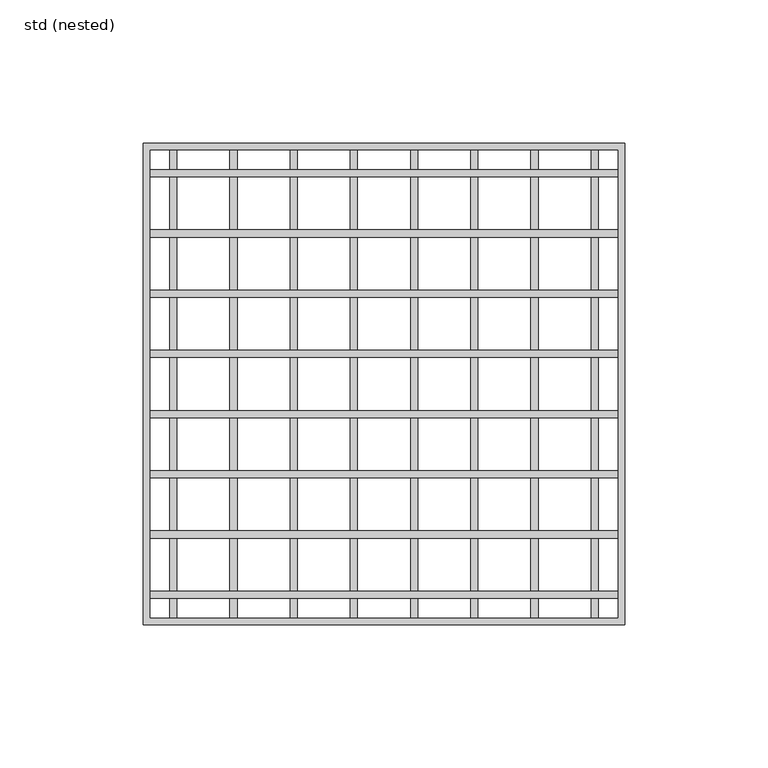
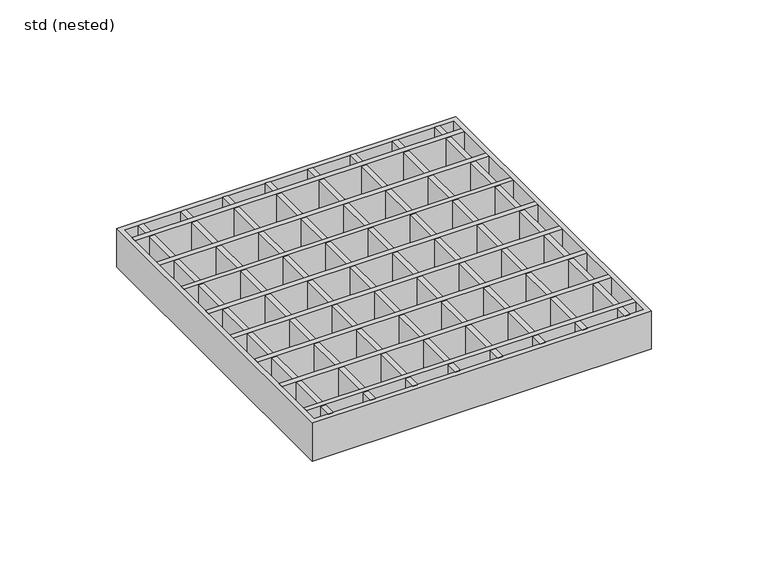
"""IFC4 building model written with IfcOpenShell, lengths in millimetres: sanitary terminal geometry, ZZZ_do not use_PF_ST_UN_square grating for hygienic gully_ACO : std (nested)."""

from ifc_helpers import new_model, si_unit, frame, origin, place, context, project, spatial, polyline, outline, extrude, source, transform, mapped, element, save


def std_nested_6d645567(model_context):
    return source(origin(), model_context, "Body", "SweptSolid", [
        extrude(outline(polyline([(-81.5, -74.75), (-81.5, -72.25), (81.5, -72.25), (81.5, -74.75), (-81.5, -74.75)])), frame((0.0, 0.0, -20.0), z_axis=(0.0, 0.0, 1.0), x_axis=(1.0, 0.0, 0.0)), (0.0, 0.0, 1.0), 20.0),
        extrude(outline(polyline([(-81.5, -53.75), (-81.5, -51.25), (81.5, -51.25), (81.5, -53.75), (-81.5, -53.75)])), frame((0.0, 0.0, -20.0), z_axis=(0.0, 0.0, 1.0), x_axis=(1.0, 0.0, 0.0)), (0.0, 0.0, 1.0), 20.0),
        extrude(outline(polyline([(-81.5, -32.75), (-81.5, -30.25), (81.5, -30.25), (81.5, -32.75), (-81.5, -32.75)])), frame((0.0, 0.0, -20.0), z_axis=(0.0, 0.0, 1.0), x_axis=(1.0, 0.0, 0.0)), (0.0, 0.0, 1.0), 20.0),
        extrude(outline(polyline([(-81.5, 72.25), (-81.5, 74.75), (81.5, 74.75), (81.5, 72.25), (-81.5, 72.25)])), frame((0.0, 0.0, -20.0), z_axis=(0.0, 0.0, 1.0), x_axis=(1.0, 0.0, 0.0)), (0.0, 0.0, 1.0), 20.0),
        extrude(outline(polyline([(-81.5, 51.25), (-81.5, 53.75), (81.5, 53.75), (81.5, 51.25), (-81.5, 51.25)])), frame((0.0, 0.0, -20.0), z_axis=(0.0, 0.0, 1.0), x_axis=(1.0, 0.0, 0.0)), (0.0, 0.0, 1.0), 20.0),
        extrude(outline(polyline([(-81.5, 30.25), (-81.5, 32.75), (81.5, 32.75), (81.5, 30.25), (-81.5, 30.25)])), frame((0.0, 0.0, -20.0), z_axis=(0.0, 0.0, 1.0), x_axis=(1.0, 0.0, 0.0)), (0.0, 0.0, 1.0), 20.0),
        extrude(outline(polyline([(-81.5, 9.25), (-81.5, 11.75), (81.5, 11.75), (81.5, 9.25), (-81.5, 9.25)])), frame((0.0, 0.0, -20.0), z_axis=(0.0, 0.0, 1.0), x_axis=(1.0, 0.0, 0.0)), (0.0, 0.0, 1.0), 20.0),
        extrude(outline(polyline([(-81.5, -11.75), (-81.5, -9.25), (81.5, -9.25), (81.5, -11.75), (-81.5, -11.75)])), frame((0.0, 0.0, -20.0), z_axis=(0.0, 0.0, 1.0), x_axis=(1.0, 0.0, 0.0)), (0.0, 0.0, 1.0), 20.0),
        extrude(outline(polyline([(-72.25, -81.5), (-74.75, -81.5), (-74.75, 81.5), (-72.25, 81.5), (-72.25, -81.5)])), frame((0.0, 0.0, -20.0), z_axis=(0.0, 0.0, 1.0), x_axis=(1.0, 0.0, 0.0)), (0.0, 0.0, 1.0), 20.0),
        extrude(outline(polyline([(-51.25, -81.5), (-53.75, -81.5), (-53.75, 81.5), (-51.25, 81.5), (-51.25, -81.5)])), frame((0.0, 0.0, -20.0), z_axis=(0.0, 0.0, 1.0), x_axis=(1.0, 0.0, 0.0)), (0.0, 0.0, 1.0), 20.0),
        extrude(outline(polyline([(-30.25, -81.5), (-32.75, -81.5), (-32.75, 81.5), (-30.25, 81.5), (-30.25, -81.5)])), frame((0.0, 0.0, -20.0), z_axis=(0.0, 0.0, 1.0), x_axis=(1.0, 0.0, 0.0)), (0.0, 0.0, 1.0), 20.0),
        extrude(outline(polyline([(74.75, -81.5), (72.25, -81.5), (72.25, 81.5), (74.75, 81.5), (74.75, -81.5)])), frame((0.0, 0.0, -20.0), z_axis=(0.0, 0.0, 1.0), x_axis=(1.0, 0.0, 0.0)), (0.0, 0.0, 1.0), 20.0),
        extrude(outline(polyline([(53.75, -81.5), (51.25, -81.5), (51.25, 81.5), (53.75, 81.5), (53.75, -81.5)])), frame((0.0, 0.0, -20.0), z_axis=(0.0, 0.0, 1.0), x_axis=(1.0, 0.0, 0.0)), (0.0, 0.0, 1.0), 20.0),
        extrude(outline(polyline([(32.75, -81.5), (30.25, -81.5), (30.25, 81.5), (32.75, 81.5), (32.75, -81.5)])), frame((0.0, 0.0, -20.0), z_axis=(0.0, 0.0, 1.0), x_axis=(1.0, 0.0, 0.0)), (0.0, 0.0, 1.0), 20.0),
        extrude(outline(polyline([(-9.25, -81.5), (-11.75, -81.5), (-11.75, 81.5), (-9.25, 81.5), (-9.25, -81.5)])), frame((0.0, 0.0, -20.0), z_axis=(0.0, 0.0, 1.0), x_axis=(1.0, 0.0, 0.0)), (0.0, 0.0, 1.0), 20.0),
        extrude(outline(polyline([(11.75, -81.5), (9.25, -81.5), (9.25, 81.5), (11.75, 81.5), (11.75, -81.5)])), frame((0.0, 0.0, -20.0), z_axis=(0.0, 0.0, 1.0), x_axis=(1.0, 0.0, 0.0)), (0.0, 0.0, 1.0), 20.0),
        extrude(outline(polyline([(84.0, 84.0), (84.0, -84.0), (-84.0, -84.0), (-84.0, 84.0), (84.0, 84.0)]), holes=[polyline([(81.5, 81.5), (-81.5, 81.5), (-81.5, -81.5), (81.5, -81.5), (81.5, 81.5)])]), frame((0.0, 0.0, -20.0), z_axis=(0.0, 0.0, 1.0), x_axis=(1.0, 0.0, 0.0)), (0.0, 0.0, 1.0), 20.0),
    ])


if __name__ == "__main__":
    model = new_model("IFC4")
    model_context = context("Model", 3, world=origin())
    ifc_project = project(units=[si_unit("LENGTHUNIT", "METRE", prefix="MILLI")], contexts=[model_context])
    site = spatial("IfcSite", under=ifc_project)
    building = spatial("IfcBuilding", under=site)
    placement = place(None, origin())
    std_nested_shape = std_nested_6d645567(model_context)
    element("IfcSanitaryTerminal", 1, ObjectType="ZZZ_do not use_PF_ST_UN_square grating for hygienic gully_ACO : std (nested)", at=placement, inside=building, context=model_context, shape_type="MappedRepresentation", body=[
        mapped(std_nested_shape, transform((0.0, 0.0, 0.0), x_axis=(1.0, 0.0, 0.0), y_axis=(0.0, 1.0, 0.0), z_axis=(0.0, 0.0, 1.0))),
    ])
    save(model, "model.ifc")
